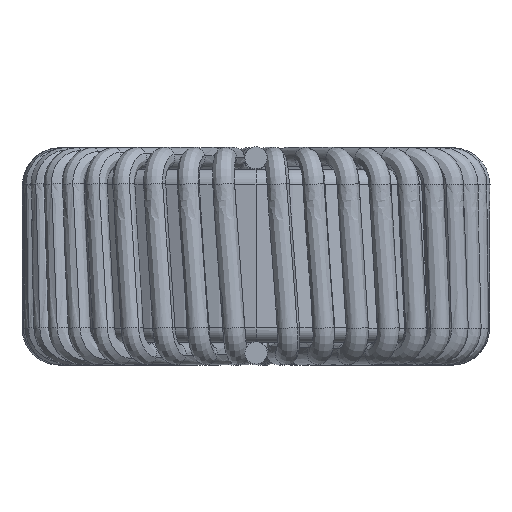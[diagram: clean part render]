
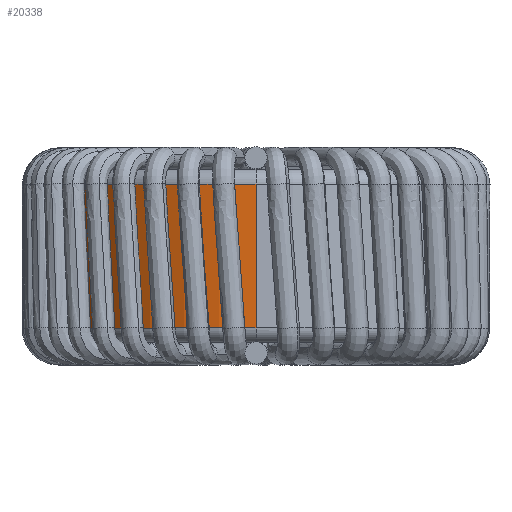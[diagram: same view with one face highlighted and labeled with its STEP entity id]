
A CAD part, top view. The second image highlights one B-rep face of the part: STEP entity #20338.
In plain terms, the highlighted cylindrical face has radius 8.7 mm (diameter 17.4 mm), a partial arc.
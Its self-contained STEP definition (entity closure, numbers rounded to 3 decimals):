
#1063 = EDGE_CURVE ( 'NONE', #18653, #61295, #48673, .T. ) ;
#3442 = EDGE_CURVE ( 'NONE', #17353, #18653, #41137, .T. ) ;
#4049 = DIRECTION ( 'NONE',  ( 0., 0., 1. ) ) ;
#8314 = CARTESIAN_POINT ( 'NONE',  ( 0., 2.955, -8.7 ) ) ;
#8851 = CARTESIAN_POINT ( 'NONE',  ( 0., -2.955, 0. ) ) ;
#13938 = DIRECTION ( 'NONE',  ( 0., 1., 0. ) ) ;
#14630 = DIRECTION ( 'NONE',  ( 0., -1., 0. ) ) ;
#14869 = ORIENTED_EDGE ( 'NONE', *, *, #3442, .T. ) ;
#15060 = AXIS2_PLACEMENT_3D ( 'NONE', #8851, #13938, #54544 ) ;
#17353 = VERTEX_POINT ( 'NONE', #39162 ) ;
#18653 = VERTEX_POINT ( 'NONE', #8314 ) ;
#20338 = ADVANCED_FACE ( 'NONE', ( #30942 ), #54721, .T. ) ;
#21156 = VERTEX_POINT ( 'NONE', #44721 ) ;
#29041 = LINE ( 'NONE', #34179, #37782 ) ;
#30942 = FACE_OUTER_BOUND ( 'NONE', #58159, .T. ) ;
#32347 = ORIENTED_EDGE ( 'NONE', *, *, #45955, .T. ) ;
#34179 = CARTESIAN_POINT ( 'NONE',  ( 0., 3.555, 8.7 ) ) ;
#37024 = CARTESIAN_POINT ( 'NONE',  ( 0., 3.555, 0. ) ) ;
#37512 = VECTOR ( 'NONE', #14630, 1000. ) ;
#37782 = VECTOR ( 'NONE', #59658, 1000. ) ;
#39162 = CARTESIAN_POINT ( 'NONE',  ( 0., 2.955, 8.7 ) ) ;
#40912 = EDGE_CURVE ( 'NONE', #17353, #21156, #29041, .T. ) ;
#41137 = CIRCLE ( 'NONE', #47655, 8.7 ) ;
#42139 = DIRECTION ( 'NONE',  ( 0., -1., 0. ) ) ;
#44721 = CARTESIAN_POINT ( 'NONE',  ( 0., -2.955, 8.7 ) ) ;
#45521 = CARTESIAN_POINT ( 'NONE',  ( 0., 3.555, -8.7 ) ) ;
#45955 = EDGE_CURVE ( 'NONE', #61295, #21156, #62832, .T. ) ;
#45969 = AXIS2_PLACEMENT_3D ( 'NONE', #37024, #42139, #47264 ) ;
#47264 = DIRECTION ( 'NONE',  ( 0., 0., -1. ) ) ;
#47655 = AXIS2_PLACEMENT_3D ( 'NONE', #60682, #52670, #4049 ) ;
#48673 = LINE ( 'NONE', #45521, #37512 ) ;
#51615 = CARTESIAN_POINT ( 'NONE',  ( 0., -2.955, -8.7 ) ) ;
#52670 = DIRECTION ( 'NONE',  ( 0., -1., 0. ) ) ;
#54544 = DIRECTION ( 'NONE',  ( 0., 0., 1. ) ) ;
#54721 = CYLINDRICAL_SURFACE ( 'NONE', #45969, 8.7 ) ;
#58159 = EDGE_LOOP ( 'NONE', ( #63973, #14869, #60529, #32347 ) ) ;
#59658 = DIRECTION ( 'NONE',  ( 0., -1., 0. ) ) ;
#60529 = ORIENTED_EDGE ( 'NONE', *, *, #1063, .T. ) ;
#60682 = CARTESIAN_POINT ( 'NONE',  ( 0., 2.955, 0. ) ) ;
#61295 = VERTEX_POINT ( 'NONE', #51615 ) ;
#62832 = CIRCLE ( 'NONE', #15060, 8.7 ) ;
#63973 = ORIENTED_EDGE ( 'NONE', *, *, #40912, .F. ) ;
